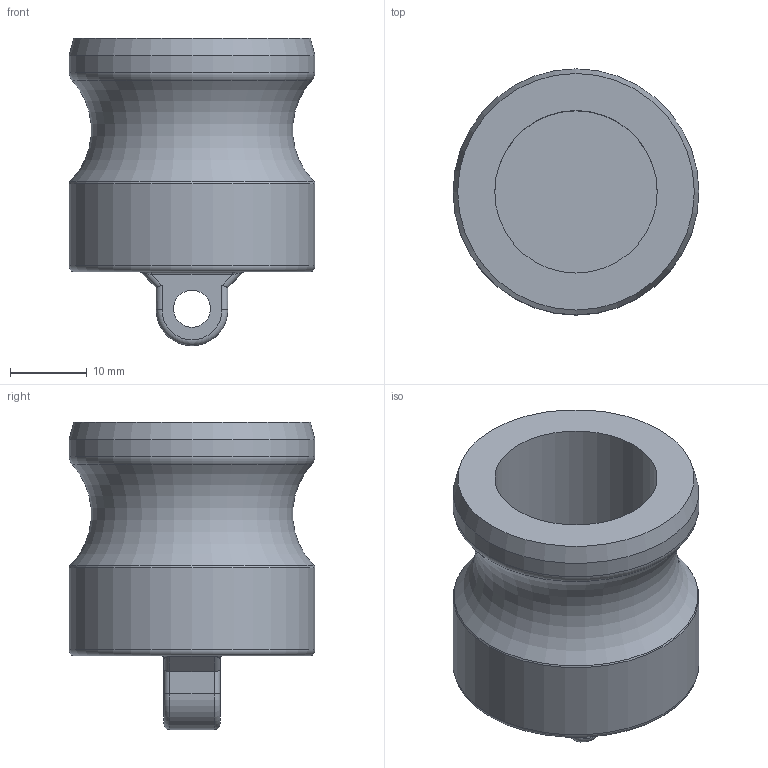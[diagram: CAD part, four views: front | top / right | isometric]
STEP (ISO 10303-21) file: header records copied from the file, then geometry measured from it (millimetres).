
FILE_DESCRIPTION(/* description */ ('Alibre Inc.'),/* implementation_level */ '2;1');
FILE_NAME(/* name */ 'export0',/* time_stamp */ '2016-01-21T14:28:34-05:00',/* author */ (''),/* organization */ (''),/* preprocessor_version */ 'ST-DEVELOPER v14',/* originating_system */ 'Alibre',/* authorisation */ '');
FILE_SCHEMA (('CONFIG_CONTROL_DESIGN'));
Length unit declared in the file: centimetre
Products named in the file (1): ID_1
Bounding box: 32.11 x 32.11 x 40.13 mm (x, y, z)
Volume: 13516.2 mm3; surface area: 6579.6 mm2
Topology: 1 solids, 1 shells, 37 faces, 77 edges, 44 vertices
Faces by surface type: cylinder 17, plane 9, torus 5, bspline 4, cone 2
Full cylindrical faces by diameter (mm): 4.826 x1, 21.209 x1, 32.106 x2
Entity records: 1301 total; most frequent: CARTESIAN_POINT 457, DIRECTION 160, ORIENTED_EDGE 136, AXIS2_PLACEMENT_3D 73, EDGE_CURVE 68, EDGE_LOOP 50, FACE_BOUND 50, VERTEX_POINT 44
